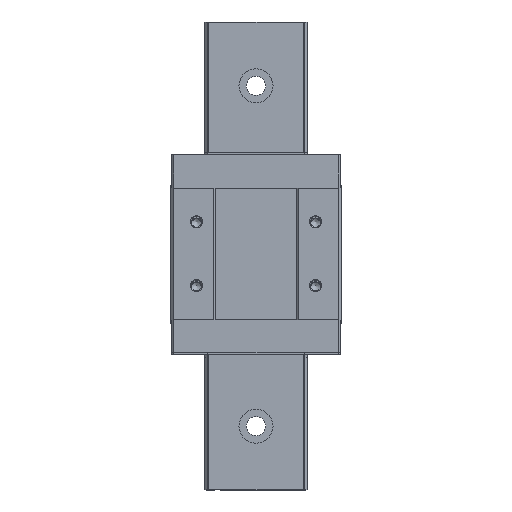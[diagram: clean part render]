
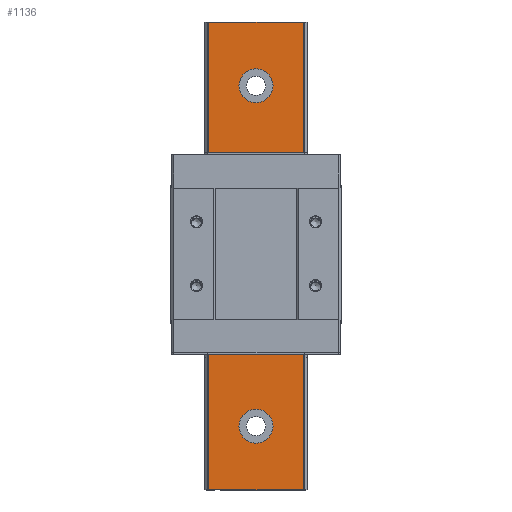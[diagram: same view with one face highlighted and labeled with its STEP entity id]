
A CAD part, top view. The second image highlights one B-rep face of the part: STEP entity #1136.
In plain terms, the highlighted planar face has unit normal (0, 0, 1).
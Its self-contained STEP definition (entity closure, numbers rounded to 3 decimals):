
#1136 = ADVANCED_FACE( '', ( #2293, #2294, #2295, #2296 ), #2297, .T. );
#2293 = FACE_BOUND( '', #2908, .T. );
#2294 = FACE_BOUND( '', #2909, .T. );
#2295 = FACE_BOUND( '', #2910, .T. );
#2296 = FACE_OUTER_BOUND( '', #2911, .T. );
#2297 = PLANE( '', #2912 );
#2908 = EDGE_LOOP( '', ( #3786 ) );
#2909 = EDGE_LOOP( '', ( #3787 ) );
#2910 = EDGE_LOOP( '', ( #3788 ) );
#2911 = EDGE_LOOP( '', ( #3789, #3790, #3791, #3792 ) );
#2912 = AXIS2_PLACEMENT_3D( '', #3793, #3794, #3795 );
#3786 = ORIENTED_EDGE( '', *, *, #5224, .T. );
#3787 = ORIENTED_EDGE( '', *, *, #5225, .T. );
#3788 = ORIENTED_EDGE( '', *, *, #5226, .T. );
#3789 = ORIENTED_EDGE( '', *, *, #5227, .F. );
#3790 = ORIENTED_EDGE( '', *, *, #5228, .F. );
#3791 = ORIENTED_EDGE( '', *, *, #5197, .T. );
#3792 = ORIENTED_EDGE( '', *, *, #5223, .T. );
#3793 = CARTESIAN_POINT( '', ( -11.1, -55., 4.25 ) );
#3794 = DIRECTION( '', ( 0., 0., 1. ) );
#3795 = DIRECTION( '', ( 1., 0., 0. ) );
#5197 = EDGE_CURVE( '', #5930, #5928, #5931, .T. );
#5223 = EDGE_CURVE( '', #5928, #5979, #5981, .T. );
#5224 = EDGE_CURVE( '', #5982, #5982, #5983, .T. );
#5225 = EDGE_CURVE( '', #5984, #5984, #5985, .T. );
#5226 = EDGE_CURVE( '', #5986, #5986, #5987, .T. );
#5227 = EDGE_CURVE( '', #5988, #5979, #5989, .T. );
#5228 = EDGE_CURVE( '', #5930, #5988, #5990, .T. );
#5928 = VERTEX_POINT( '', #6253 );
#5930 = VERTEX_POINT( '', #6256 );
#5931 = LINE( '', #6257, #6258 );
#5979 = VERTEX_POINT( '', #6318 );
#5981 = LINE( '', #6321, #6322 );
#5982 = VERTEX_POINT( '', #6323 );
#5983 = CIRCLE( '', #6324, 4. );
#5984 = VERTEX_POINT( '', #6325 );
#5985 = CIRCLE( '', #6326, 4. );
#5986 = VERTEX_POINT( '', #6327 );
#5987 = CIRCLE( '', #6328, 4. );
#5988 = VERTEX_POINT( '', #6329 );
#5989 = LINE( '', #6330, #6331 );
#5990 = LINE( '', #6332, #6333 );
#6253 = CARTESIAN_POINT( '', ( 11.1, -55., 4.25 ) );
#6256 = CARTESIAN_POINT( '', ( -11.1, -55., 4.25 ) );
#6257 = CARTESIAN_POINT( '', ( -11.1, -55., 4.25 ) );
#6258 = VECTOR( '', #6695, 1000. );
#6318 = CARTESIAN_POINT( '', ( 11.1, 55., 4.25 ) );
#6321 = CARTESIAN_POINT( '', ( 11.1, -55., 4.25 ) );
#6322 = VECTOR( '', #6745, 1000. );
#6323 = CARTESIAN_POINT( '', ( 0., -4., 4.25 ) );
#6324 = AXIS2_PLACEMENT_3D( '', #6746, #6747, #6748 );
#6325 = CARTESIAN_POINT( '', ( 0., 36., 4.25 ) );
#6326 = AXIS2_PLACEMENT_3D( '', #6749, #6750, #6751 );
#6327 = CARTESIAN_POINT( '', ( 0., -44., 4.25 ) );
#6328 = AXIS2_PLACEMENT_3D( '', #6752, #6753, #6754 );
#6329 = CARTESIAN_POINT( '', ( -11.1, 55., 4.25 ) );
#6330 = CARTESIAN_POINT( '', ( -11.1, 55., 4.25 ) );
#6331 = VECTOR( '', #6755, 1000. );
#6332 = CARTESIAN_POINT( '', ( -11.1, -55., 4.25 ) );
#6333 = VECTOR( '', #6756, 1000. );
#6695 = DIRECTION( '', ( 1., 0., 0. ) );
#6745 = DIRECTION( '', ( 0., 1., 0. ) );
#6746 = CARTESIAN_POINT( '', ( 0., 0., 4.25 ) );
#6747 = DIRECTION( '', ( 0., 0., -1. ) );
#6748 = DIRECTION( '', ( 0., -1., 0. ) );
#6749 = CARTESIAN_POINT( '', ( 0., 40., 4.25 ) );
#6750 = DIRECTION( '', ( 0., 0., -1. ) );
#6751 = DIRECTION( '', ( 0., -1., 0. ) );
#6752 = CARTESIAN_POINT( '', ( 0., -40., 4.25 ) );
#6753 = DIRECTION( '', ( 0., 0., -1. ) );
#6754 = DIRECTION( '', ( 0., -1., 0. ) );
#6755 = DIRECTION( '', ( 1., 0., 0. ) );
#6756 = DIRECTION( '', ( 0., 1., 0. ) );
